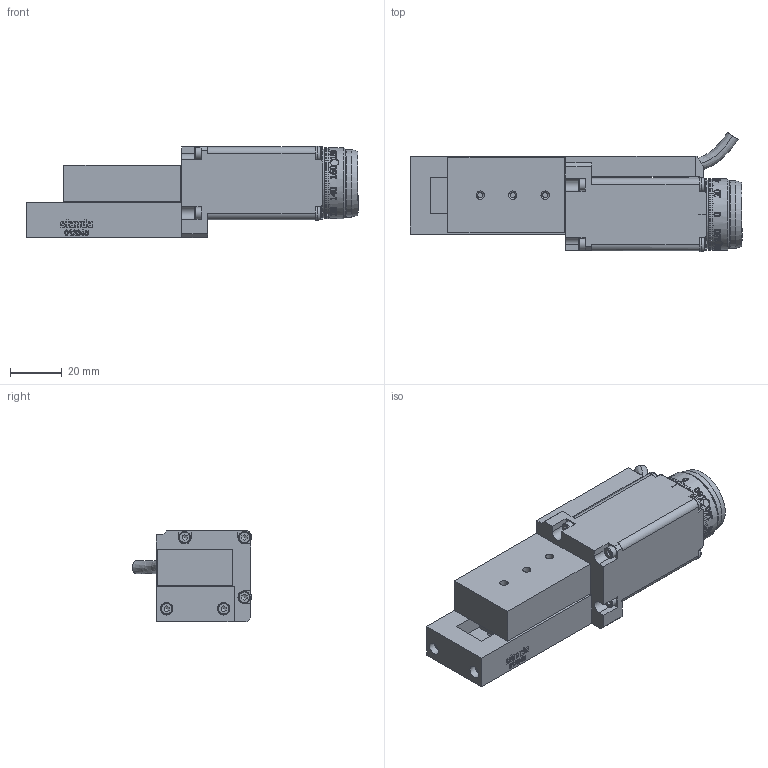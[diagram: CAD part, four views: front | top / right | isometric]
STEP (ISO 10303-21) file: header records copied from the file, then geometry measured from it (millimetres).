
FILE_DESCRIPTION(/* description */ (''),/* implementation_level */ '2;1');
FILE_NAME(/* name */ 'U:\KONSTRUKTORIAI\DOKUMENTACIJA\8\8MT173\8MT173-10\STEP\8MT173-10.stp',/* time_stamp */ '2020-10-09T07:15:07+03:00',/* author */ ('dsgn36'),/* organization */ (''),/* preprocessor_version */ 'ST-DEVELOPER v15.2',/* originating_system */ 'Autodesk Inventor 2014',/* authorisation */ '');
FILE_SCHEMA (('CONFIG_CONTROL_DESIGN'));
Products named in the file (2): Part3; 8MT173-10
Bounding box: 128 x 46.04 x 35.3 mm (x, y, z)
Volume: 102196.2 mm3; surface area: 27382 mm2
Topology: 1 solids, 2 shells, 1728 faces, 4712 edges, 3097 vertices
Faces by surface type: plane 940, bspline 362, cylinder 276, cone 97, torus 41, sphere 12
Full cylindrical faces by diameter (mm): 2.013 x3, 2.5 x2, 2.7 x2, 2.8 x2, 3.2 x4, 3.242 x3, 4.5 x15, 4.8 x2, 4.917 x2, 5 x8, 5.2 x10, 7.1 x1, 11 x2, 22 x1, 26 x1, 26.5 x1, 27.5 x1
Entity records: 120458 total; most frequent: CARTESIAN_POINT 80983, ORIENTED_EDGE 9068, DIRECTION 6620, EDGE_CURVE 4534, VERTEX_POINT 3042, LINE 2210, VECTOR 2210, AXIS2_PLACEMENT_3D 2205
